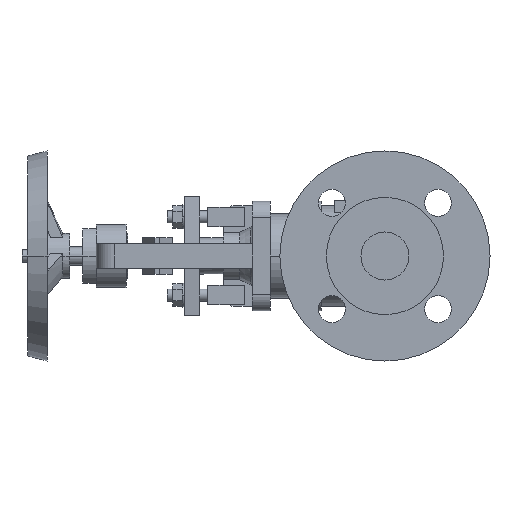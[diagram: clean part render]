
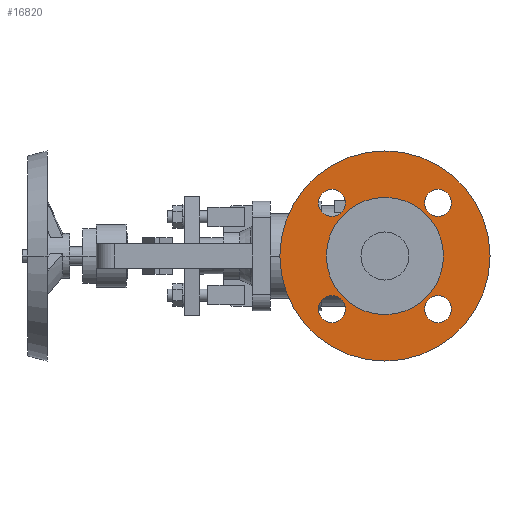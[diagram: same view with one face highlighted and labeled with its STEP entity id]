
A CAD part, left-side view. The second image highlights one B-rep face of the part: STEP entity #16820.
In plain terms, the highlighted planar face has unit normal (-1, 0, 0).
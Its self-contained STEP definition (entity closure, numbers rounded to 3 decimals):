
#7880=CARTESIAN_POINT('',(3.7,0.,70.));
#7890=VERTEX_POINT('',#7880);
#8050=CARTESIAN_POINT('',(3.7,0.,-70.));
#8060=VERTEX_POINT('',#8050);
#8090=CARTESIAN_POINT('',(3.7,0.,0.));
#8100=DIRECTION('',(1.,0.,0.));
#8110=DIRECTION('',(0.,0.,-1.));
#8120=AXIS2_PLACEMENT_3D('',#8090,#8100,#8110);
#8130=CIRCLE('',#8120,70.);
#8140=EDGE_CURVE('',#7890,#8060,#8130,.T.);
#8370=CARTESIAN_POINT('',(3.7,35.355,-26.355));
#8380=VERTEX_POINT('',#8370);
#8410=CARTESIAN_POINT('',(3.7,35.355,-35.355));
#8420=DIRECTION('',(-1.,0.,0.));
#8430=DIRECTION('',(0.,0.,-1.));
#8440=AXIS2_PLACEMENT_3D('',#8410,#8420,#8430);
#8450=CIRCLE('',#8440,9.);
#8460=CARTESIAN_POINT('',(3.7,35.355,-44.355));
#8470=VERTEX_POINT('',#8460);
#8480=EDGE_CURVE('',#8470,#8380,#8450,.T.);
#8860=CARTESIAN_POINT('',(3.7,-35.355,-44.355));
#8870=VERTEX_POINT('',#8860);
#9030=CARTESIAN_POINT('',(3.7,-35.355,-26.355));
#9040=VERTEX_POINT('',#9030);
#9070=CARTESIAN_POINT('',(3.7,-35.355,-35.355));
#9080=DIRECTION('',(-1.,0.,0.));
#9090=DIRECTION('',(0.,0.,-1.));
#9100=AXIS2_PLACEMENT_3D('',#9070,#9080,#9090);
#9110=CIRCLE('',#9100,9.);
#9120=EDGE_CURVE('',#8870,#9040,#9110,.T.);
#9350=CARTESIAN_POINT('',(3.7,35.355,26.355));
#9360=VERTEX_POINT('',#9350);
#9520=CARTESIAN_POINT('',(3.7,35.355,44.355));
#9530=VERTEX_POINT('',#9520);
#9560=CARTESIAN_POINT('',(3.7,35.355,35.355));
#9570=DIRECTION('',(-1.,0.,0.));
#9580=DIRECTION('',(0.,0.,-1.));
#9590=AXIS2_PLACEMENT_3D('',#9560,#9570,#9580);
#9600=CIRCLE('',#9590,9.);
#9610=EDGE_CURVE('',#9360,#9530,#9600,.T.);
#9840=CARTESIAN_POINT('',(3.7,-35.355,44.355));
#9850=VERTEX_POINT('',#9840);
#9880=CARTESIAN_POINT('',(3.7,-35.355,35.355));
#9890=DIRECTION('',(-1.,0.,0.));
#9900=DIRECTION('',(0.,0.,-1.));
#9910=AXIS2_PLACEMENT_3D('',#9880,#9890,#9900);
#9920=CIRCLE('',#9910,9.);
#9930=CARTESIAN_POINT('',(3.7,-35.355,26.355));
#9940=VERTEX_POINT('',#9930);
#9950=EDGE_CURVE('',#9940,#9850,#9920,.T.);
#10330=CARTESIAN_POINT('',(3.7,39.,0.));
#10340=VERTEX_POINT('',#10330);
#10370=CARTESIAN_POINT('',(3.7,0.,0.));
#10380=DIRECTION('',(-1.,0.,0.));
#10390=DIRECTION('',(0.,1.,0.));
#10400=AXIS2_PLACEMENT_3D('',#10370,#10380,#10390);
#10410=CIRCLE('',#10400,39.);
#10420=CARTESIAN_POINT('',(3.7,-39.,0.));
#10430=VERTEX_POINT('',#10420);
#10440=EDGE_CURVE('',#10430,#10340,#10410,.T.);
#16470=CARTESIAN_POINT('',(3.7,54.5,0.));
#16480=DIRECTION('',(1.,0.,0.));
#16490=DIRECTION('',(0.,-1.,0.));
#16500=AXIS2_PLACEMENT_3D('',#16470,#16480,#16490);
#16510=PLANE('',#16500);
#16520=ORIENTED_EDGE('',*,*,#10440,.F.);
#16530=EDGE_CURVE('',#10340,#10430,#10410,.T.);
#16540=ORIENTED_EDGE('',*,*,#16530,.F.);
#16550=EDGE_LOOP('',(#16540,#16520));
#16560=FACE_BOUND('',#16550,.T.);
#16570=EDGE_CURVE('',#8060,#7890,#8130,.T.);
#16580=ORIENTED_EDGE('',*,*,#16570,.F.);
#16590=ORIENTED_EDGE('',*,*,#8140,.F.);
#16600=EDGE_LOOP('',(#16590,#16580));
#16610=FACE_OUTER_BOUND('',#16600,.T.);
#16620=ORIENTED_EDGE('',*,*,#8480,.F.);
#16630=EDGE_CURVE('',#8380,#8470,#8450,.T.);
#16640=ORIENTED_EDGE('',*,*,#16630,.F.);
#16650=EDGE_LOOP('',(#16640,#16620));
#16660=FACE_BOUND('',#16650,.T.);
#16670=EDGE_CURVE('',#9040,#8870,#9110,.T.);
#16680=ORIENTED_EDGE('',*,*,#16670,.F.);
#16690=ORIENTED_EDGE('',*,*,#9120,.F.);
#16700=EDGE_LOOP('',(#16690,#16680));
#16710=FACE_BOUND('',#16700,.T.);
#16720=EDGE_CURVE('',#9530,#9360,#9600,.T.);
#16730=ORIENTED_EDGE('',*,*,#16720,.F.);
#16740=ORIENTED_EDGE('',*,*,#9610,.F.);
#16750=EDGE_LOOP('',(#16740,#16730));
#16760=FACE_BOUND('',#16750,.T.);
#16770=EDGE_CURVE('',#9850,#9940,#9920,.T.);
#16780=ORIENTED_EDGE('',*,*,#16770,.F.);
#16790=ORIENTED_EDGE('',*,*,#9950,.F.);
#16800=EDGE_LOOP('',(#16790,#16780));
#16810=FACE_BOUND('',#16800,.T.);
#16820=ADVANCED_FACE('',(#16560,#16610,#16660,#16710,#16760,#16810),
#16510,.F.);
